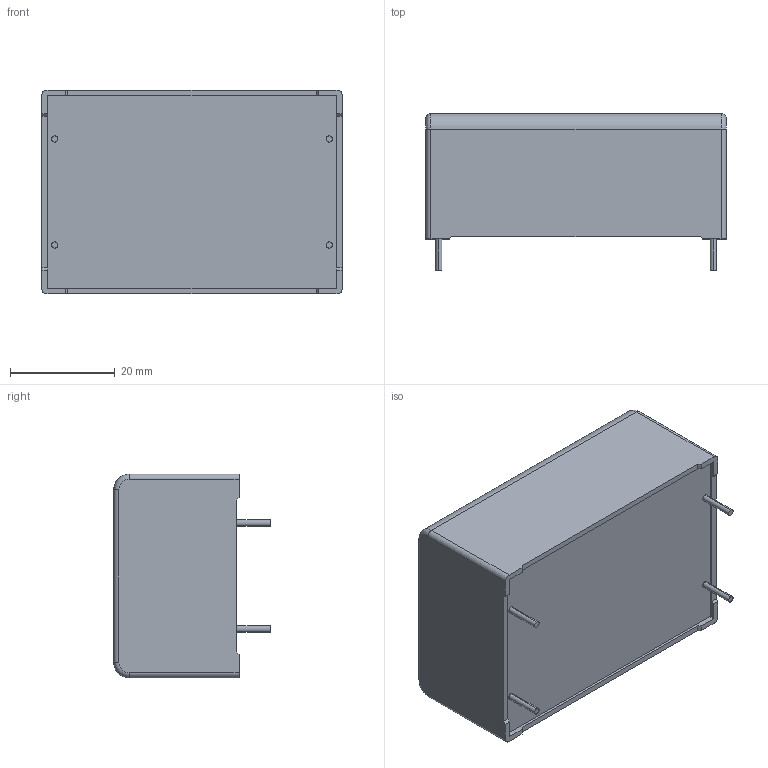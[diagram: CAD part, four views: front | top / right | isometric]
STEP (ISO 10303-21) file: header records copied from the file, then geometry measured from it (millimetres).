
FILE_DESCRIPTION (( 'STEP AP203' ), '1' );
FILE_NAME ('DC_Link_39x24x57.5_4pins20.3.step', '2017-04-03T16:00:20', ( 'work' ), ( 'Hewlett-Packard Company' ), 'SwSTEP 2.0', 'SolidWorks 2017', '' );
FILE_SCHEMA (( 'CONFIG_CONTROL_DESIGN' ));
Length unit declared in the file: millimetre
Products named in the file (1): DC_Link_39x24x57.5_4pins20.3
Bounding box: 57.5 x 30 x 39 mm (x, y, z)
Volume: 51473.3 mm3; surface area: 9024 mm2
Topology: 1 solids, 1 shells, 122 faces, 319 edges, 210 vertices
Faces by surface type: plane 82, cylinder 20, bspline 16, torus 4
Entity records: 4492 total; most frequent: CARTESIAN_POINT 1476, ORIENTED_EDGE 638, DIRECTION 545, EDGE_CURVE 319, VECTOR 243, LINE 243, VERTEX_POINT 210, AXIS2_PLACEMENT_3D 151
